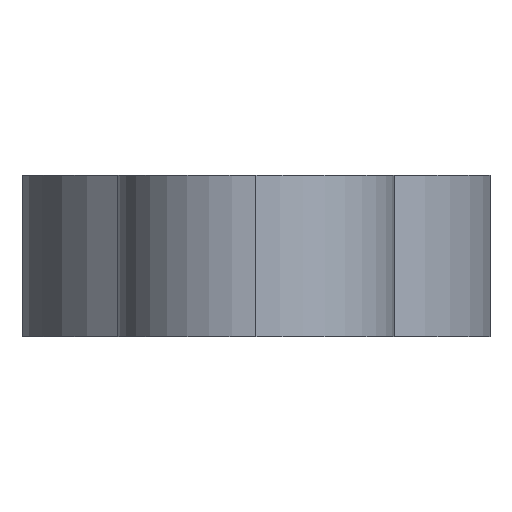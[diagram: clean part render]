
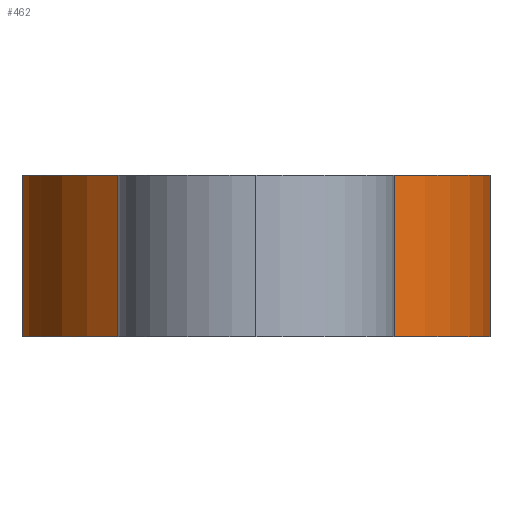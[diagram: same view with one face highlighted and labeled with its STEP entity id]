
A CAD part, left-side view. The second image highlights one B-rep face of the part: STEP entity #462.
In plain terms, the highlighted cylindrical face has radius 12.7 mm (diameter 25.4 mm), a partial arc.
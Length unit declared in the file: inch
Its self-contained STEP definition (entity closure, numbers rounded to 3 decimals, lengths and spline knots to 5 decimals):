
#22 = EDGE_LOOP ( 'NONE', ( #98, #84, #66, #34 ) ) ;
#34 = ORIENTED_EDGE ( 'NONE', *, *, #405, .T. ) ;
#65 = VERTEX_POINT ( 'NONE', #139 ) ;
#66 = ORIENTED_EDGE ( 'NONE', *, *, #447, .F. ) ;
#78 = VERTEX_POINT ( 'NONE', #149 ) ;
#84 = ORIENTED_EDGE ( 'NONE', *, *, #409, .F. ) ;
#85 = VERTEX_POINT ( 'NONE', #144 ) ;
#91 = VERTEX_POINT ( 'NONE', #146 ) ;
#98 = ORIENTED_EDGE ( 'NONE', *, *, #404, .T. ) ;
#139 = CARTESIAN_POINT ( 'NONE',  ( -0.40436, 0.2941, 0.345 ) ) ;
#144 = CARTESIAN_POINT ( 'NONE',  ( -0.40436, -0.2941, 0. ) ) ;
#146 = CARTESIAN_POINT ( 'NONE',  ( -0.40436, -0.2941, 0.345 ) ) ;
#149 = CARTESIAN_POINT ( 'NONE',  ( -0.40436, 0.2941, 0. ) ) ;
#198 = DIRECTION ( 'NONE',  ( 0., 0., -1. ) ) ;
#204 = DIRECTION ( 'NONE',  ( 0., 0., 1. ) ) ;
#207 = CARTESIAN_POINT ( 'NONE',  ( -0.40436, -0.2941, 0.345 ) ) ;
#212 = DIRECTION ( 'NONE',  ( 0., 0., -1. ) ) ;
#213 = CARTESIAN_POINT ( 'NONE',  ( 0., 0., 0. ) ) ;
#217 = CARTESIAN_POINT ( 'NONE',  ( -0.40436, 0.2941, 0.345 ) ) ;
#224 = DIRECTION ( 'NONE',  ( -1., 0., 0. ) ) ;
#244 = DIRECTION ( 'NONE',  ( -1., 0., 0. ) ) ;
#245 = CARTESIAN_POINT ( 'NONE',  ( 0., 0., 0.345 ) ) ;
#249 = CARTESIAN_POINT ( 'NONE',  ( 0., 0., 0.345 ) ) ;
#252 = DIRECTION ( 'NONE',  ( 0., 0., 1. ) ) ;
#259 = DIRECTION ( 'NONE',  ( 0., 0., -1. ) ) ;
#266 = DIRECTION ( 'NONE',  ( -1., 0., 0. ) ) ;
#327 = VECTOR ( 'NONE', #198, 39.37008 ) ;
#330 = LINE ( 'NONE', #207, #327 ) ;
#333 = CIRCLE ( 'NONE', #413, 0.5 ) ;
#346 = FACE_OUTER_BOUND ( 'NONE', #22, .T. ) ;
#350 = CYLINDRICAL_SURFACE ( 'NONE', #455, 0.5 ) ;
#360 = LINE ( 'NONE', #217, #364 ) ;
#364 = VECTOR ( 'NONE', #212, 39.37008 ) ;
#365 = CIRCLE ( 'NONE', #460, 0.5 ) ;
#404 = EDGE_CURVE ( 'NONE', #85, #78, #365, .T. ) ;
#405 = EDGE_CURVE ( 'NONE', #91, #85, #330, .T. ) ;
#409 = EDGE_CURVE ( 'NONE', #65, #78, #360, .T. ) ;
#413 = AXIS2_PLACEMENT_3D ( 'NONE', #245, #252, #244 ) ;
#447 = EDGE_CURVE ( 'NONE', #91, #65, #333, .T. ) ;
#455 = AXIS2_PLACEMENT_3D ( 'NONE', #249, #259, #266 ) ;
#460 = AXIS2_PLACEMENT_3D ( 'NONE', #213, #204, #224 ) ;
#462 = ADVANCED_FACE ( 'NONE', ( #346 ), #350, .T. ) ;
